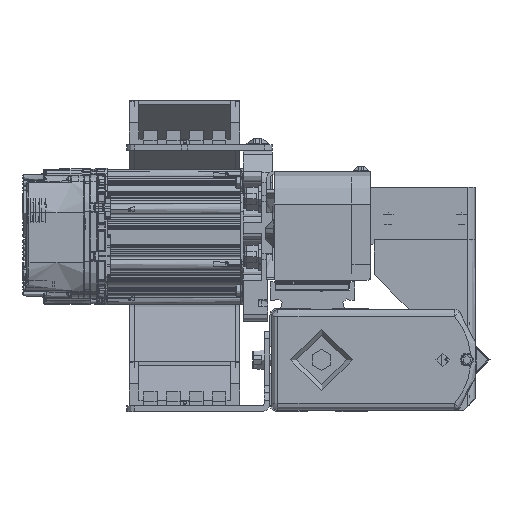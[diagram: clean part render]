
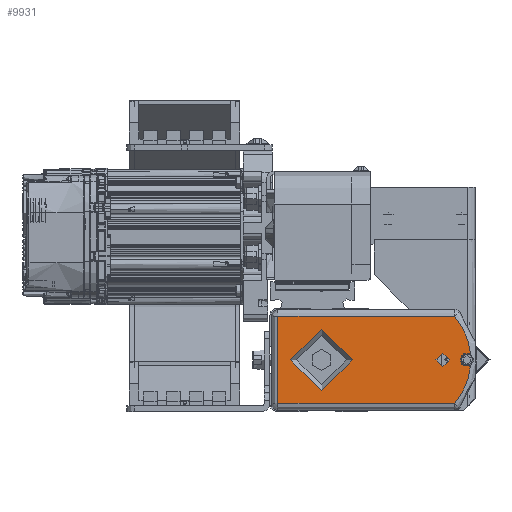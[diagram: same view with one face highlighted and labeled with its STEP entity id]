
A CAD part, front view. The second image highlights one B-rep face of the part: STEP entity #9931.
In plain terms, the highlighted planar face has unit normal (0, -1, 0).
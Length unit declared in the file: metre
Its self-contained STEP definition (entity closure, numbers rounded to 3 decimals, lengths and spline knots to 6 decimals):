
#9931 = ADVANCED_FACE( '', ( #24250, #24251, #24252 ), #24253, .T. );
#24250 = FACE_OUTER_BOUND( '', #50066, .T. );
#24251 = FACE_BOUND( '', #50067, .T. );
#24252 = FACE_BOUND( '', #50068, .T. );
#24253 = PLANE( '', #50069 );
#50066 = EDGE_LOOP( '', ( #129661, #129662, #129663, #129664, #129665, #129666 ) );
#50067 = EDGE_LOOP( '', ( #129667 ) );
#50068 = EDGE_LOOP( '', ( #129668 ) );
#50069 = AXIS2_PLACEMENT_3D( '', #129669, #129670, #129671 );
#129661 = ORIENTED_EDGE( '', *, *, #180524, .T. );
#129662 = ORIENTED_EDGE( '', *, *, #180525, .T. );
#129663 = ORIENTED_EDGE( '', *, *, #180526, .T. );
#129664 = ORIENTED_EDGE( '', *, *, #180527, .T. );
#129665 = ORIENTED_EDGE( '', *, *, #180528, .T. );
#129666 = ORIENTED_EDGE( '', *, *, #180529, .T. );
#129667 = ORIENTED_EDGE( '', *, *, #180530, .T. );
#129668 = ORIENTED_EDGE( '', *, *, #180531, .F. );
#129669 = CARTESIAN_POINT( '', ( -0.04064, -0.004762, -0.022 ) );
#129670 = DIRECTION( '', ( 0., -1., 0. ) );
#129671 = DIRECTION( '', ( 0., 0., -1. ) );
#180524 = EDGE_CURVE( '', #203960, #203961, #203962, .T. );
#180525 = EDGE_CURVE( '', #203961, #203963, #203964, .T. );
#180526 = EDGE_CURVE( '', #203963, #203965, #203966, .T. );
#180527 = EDGE_CURVE( '', #203965, #203967, #203968, .T. );
#180528 = EDGE_CURVE( '', #203967, #203969, #203970, .T. );
#180529 = EDGE_CURVE( '', #203969, #203960, #203971, .T. );
#180530 = EDGE_CURVE( '', #203972, #203972, #203973, .T. );
#180531 = EDGE_CURVE( '', #203974, #203974, #203975, .T. );
#203960 = VERTEX_POINT( '', #240517 );
#203961 = VERTEX_POINT( '', #240518 );
#203962 = CIRCLE( '', #240519, 0.02875 );
#203963 = VERTEX_POINT( '', #240520 );
#203964 = CIRCLE( '', #240521, 0.003 );
#203965 = VERTEX_POINT( '', #240522 );
#203966 = CIRCLE( '', #240523, 0.02875 );
#203967 = VERTEX_POINT( '', #240524 );
#203968 = LINE( '', #240525, #240526 );
#203969 = VERTEX_POINT( '', #240527 );
#203970 = LINE( '', #240528, #240529 );
#203971 = LINE( '', #240530, #240531 );
#203972 = VERTEX_POINT( '', #240532 );
#203973 = CIRCLE( '', #240533, 0.003 );
#203974 = VERTEX_POINT( '', #240534 );
#203975 = CIRCLE( '', #240535, 0.01344 );
#240517 = CARTESIAN_POINT( '', ( -0.039324, -0.004763, 0.019 ) );
#240518 = CARTESIAN_POINT( '', ( -0.046381, -0.004763, 0.002586 ) );
#240519 = AXIS2_PLACEMENT_3D( '', #316903, #316904, #316905 );
#240520 = CARTESIAN_POINT( '', ( -0.046381, -0.004763, -0.002586 ) );
#240521 = AXIS2_PLACEMENT_3D( '', #316906, #316907, #316908 );
#240522 = CARTESIAN_POINT( '', ( -0.039324, -0.004763, -0.019 ) );
#240523 = AXIS2_PLACEMENT_3D( '', #316909, #316910, #316911 );
#240524 = CARTESIAN_POINT( '', ( 0.03764, -0.004763, -0.019 ) );
#240525 = CARTESIAN_POINT( '', ( 0.03764, -0.004763, -0.019 ) );
#240526 = VECTOR( '', #316912, 1. );
#240527 = CARTESIAN_POINT( '', ( 0.03764, -0.004763, 0.019 ) );
#240528 = CARTESIAN_POINT( '', ( 0.03764, -0.004763, 0.019 ) );
#240529 = VECTOR( '', #316913, 1. );
#240530 = CARTESIAN_POINT( '', ( -0.039324, -0.004763, 0.019 ) );
#240531 = VECTOR( '', #316914, 1. );
#240532 = CARTESIAN_POINT( '', ( -0.03729, -0.004762, 0. ) );
#240533 = AXIS2_PLACEMENT_3D( '', #316915, #316916, #316917 );
#240534 = CARTESIAN_POINT( '', ( 0.03208, -0.004763, 0. ) );
#240535 = AXIS2_PLACEMENT_3D( '', #316918, #316919, #316920 );
#316903 = CARTESIAN_POINT( '', ( -0.017748, -0.004762, 0. ) );
#316904 = DIRECTION( '', ( 0., -1., 0. ) );
#316905 = DIRECTION( '', ( 1., 0., 0. ) );
#316906 = CARTESIAN_POINT( '', ( -0.04486, -0.004763, 0. ) );
#316907 = DIRECTION( '', ( 0., 1., 0. ) );
#316908 = DIRECTION( '', ( -1., 0., 0. ) );
#316909 = CARTESIAN_POINT( '', ( -0.017748, -0.004762, 0. ) );
#316910 = DIRECTION( '', ( 0., -1., 0. ) );
#316911 = DIRECTION( '', ( 1., 0., 0. ) );
#316912 = DIRECTION( '', ( 1., 0., 0. ) );
#316913 = DIRECTION( '', ( 0., 0., 1. ) );
#316914 = DIRECTION( '', ( -1., 0., 0. ) );
#316915 = CARTESIAN_POINT( '', ( -0.03429, -0.004762, 0. ) );
#316916 = DIRECTION( '', ( 0., 1., 0. ) );
#316917 = DIRECTION( '', ( -1., 0., 0. ) );
#316918 = CARTESIAN_POINT( '', ( 0.01864, -0.004763, 0. ) );
#316919 = DIRECTION( '', ( 0., -1., 0. ) );
#316920 = DIRECTION( '', ( 1., 0., 0. ) );
